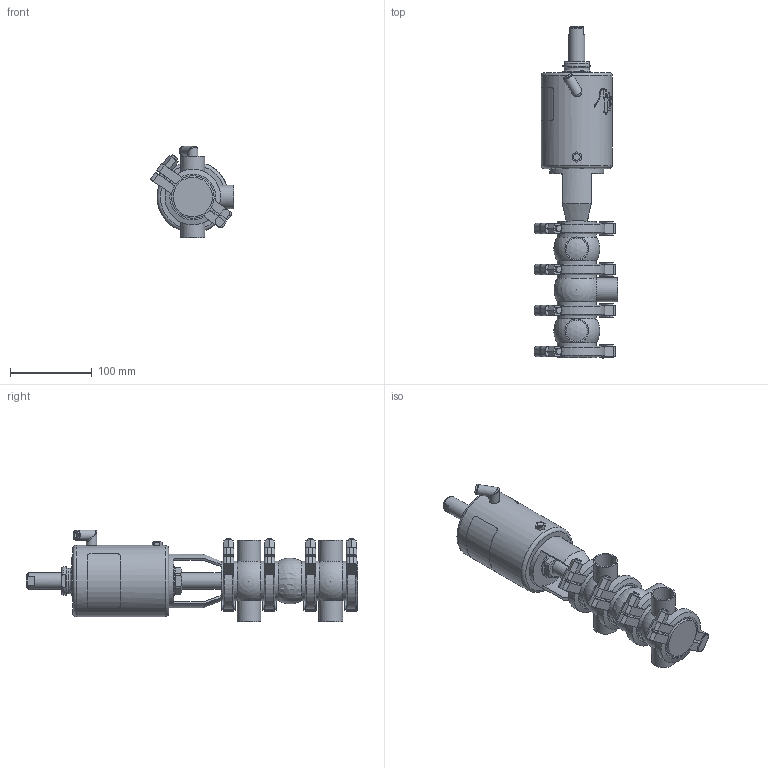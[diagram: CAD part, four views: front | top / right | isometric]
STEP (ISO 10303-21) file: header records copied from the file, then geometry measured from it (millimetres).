
FILE_DESCRIPTION (( 'STEP AP214' ), '1' );
FILE_NAME ('INNOVA L W W DIN 025 T1 AS NC_10.241.16.0028.STEP', '2024-08-07T07:06:46', ( '' ), ( '' ), 'SwSTEP 2.0', 'SolidWorks 2023', '' );
FILE_SCHEMA (( 'AUTOMOTIVE_DESIGN' ));
Length unit declared in the file: millimetre
Products named in the file (7): 10.240.15.0010_DN 025; 10.240.15.0014_T1 AS P180; INNOVA L W W DIN 025 T1 AS NC_10.241.16.0028; 10.240.15.0006_DIN 025; 10.240.15.0007_DIN 025; 10.241.15.0001_DIN 025; 10.240.15.0001_DN 025
Assembly tree (10 placements, depth 2):
  INNOVA L W W DIN 025 T1 AS NC_10.241.16.0028
    10.240.15.0007_DIN 025  x2
    10.240.15.0006_DIN 025
    10.240.15.0010_DN 025
    10.240.15.0014_T1 AS P180
    10.240.15.0001_DN 025  x4
    10.241.15.0001_DIN 025
Bounding box: 101.94 x 405.09 x 112.25 mm (x, y, z)
Volume: 1264280.9 mm3; surface area: 205551.4 mm2
Topology: 11 solids, 11 shells, 547 faces, 1458 edges, 948 vertices
Faces by surface type: plane 262, cylinder 141, bspline 80, cone 50, sphere 10, torus 4
Full cylindrical faces by diameter (mm): 6.15 x1, 8 x9, 8.5 x1, 10.5 x1, 12.5 x3, 16 x1, 20 x2, 26 x5, 29 x5, 31 x1, 34.5 x2, 36.5 x1, 48 x8, 59.7 x8, 66 x1, 87 x1
Entity records: 19919 total; most frequent: CARTESIAN_POINT 10298, ORIENTED_EDGE 1674, DIRECTION 1317, EDGE_CURVE 837, VERTEX_POINT 576, AXIS2_PLACEMENT_3D 510, EDGE_LOOP 431, FACE_OUTER_BOUND 391
